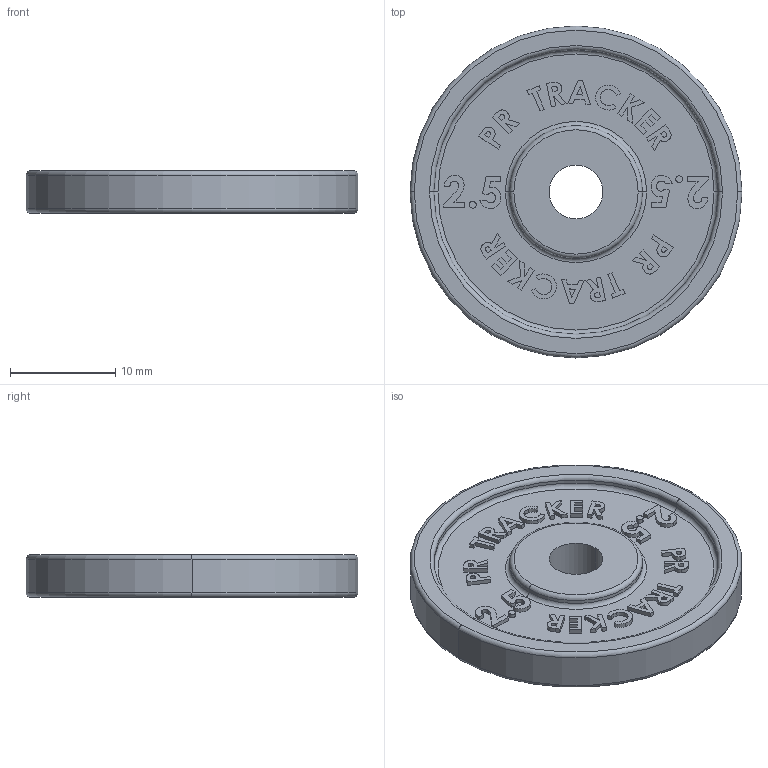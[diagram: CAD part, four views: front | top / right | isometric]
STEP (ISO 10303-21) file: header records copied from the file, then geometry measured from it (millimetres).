
FILE_DESCRIPTION (( 'STEP AP214' ), '1' );
FILE_NAME ('2.5.STEP', '2024-06-19T14:20:16', ( '' ), ( '' ), 'SwSTEP 2.0', 'SolidWorks 2022', '' );
FILE_SCHEMA (( 'AUTOMOTIVE_DESIGN' ));
Length unit declared in the file: millimetre
Products named in the file (1): 2.5
Bounding box: 31.5 x 31.5 x 4 mm (x, y, z)
Volume: 2060.8 mm3; surface area: 2325.7 mm2
Topology: 1 solids, 1 shells, 674 faces, 1780 edges, 1180 vertices
Faces by surface type: plane 466, bspline 176, torus 20, cylinder 12
Entity records: 30610 total; most frequent: CARTESIAN_POINT 15011, ORIENTED_EDGE 3560, DIRECTION 2490, EDGE_CURVE 1780, VECTOR 1364, LINE 1364, VERTEX_POINT 1180, EDGE_LOOP 748
